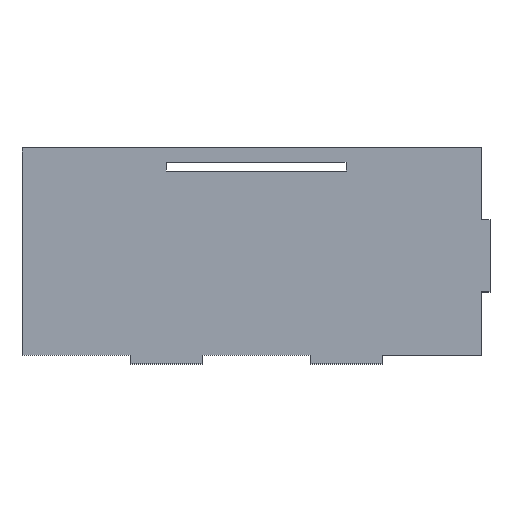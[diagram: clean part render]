
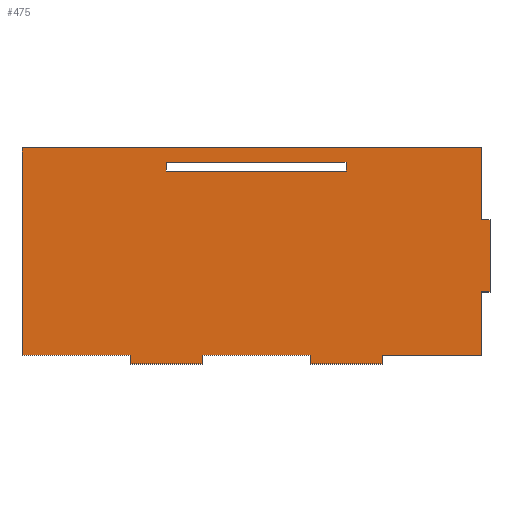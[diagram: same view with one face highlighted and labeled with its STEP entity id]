
A CAD part, top view. The second image highlights one B-rep face of the part: STEP entity #475.
In plain terms, the highlighted planar face has unit normal (0, 0, 1).
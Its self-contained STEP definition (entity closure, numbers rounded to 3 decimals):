
#1 = FACE_OUTER_BOUND ( 'NONE', #440, .T. ) ;
#6 = CARTESIAN_POINT ( 'NONE',  ( -58.322, 148.793, 10. ) ) ;
#10 = CARTESIAN_POINT ( 'NONE',  ( -196.322, -51.207, 10. ) ) ;
#11 = LINE ( 'NONE', #640, #202 ) ;
#16 = FACE_BOUND ( 'NONE', #642, .T. ) ;
#23 = VERTEX_POINT ( 'NONE', #483 ) ;
#35 = LINE ( 'NONE', #365, #307 ) ;
#36 = VECTOR ( 'NONE', #115, 1000. ) ;
#37 = ORIENTED_EDGE ( 'NONE', *, *, #555, .T. ) ;
#46 = LINE ( 'NONE', #597, #254 ) ;
#57 = LINE ( 'NONE', #729, #643 ) ;
#60 = LINE ( 'NONE', #10, #605 ) ;
#68 = DIRECTION ( 'NONE',  ( 1., 0., 0. ) ) ;
#71 = LINE ( 'NONE', #127, #701 ) ;
#79 = VECTOR ( 'NONE', #323, 1000. ) ;
#85 = LINE ( 'NONE', #594, #328 ) ;
#92 = ORIENTED_EDGE ( 'NONE', *, *, #241, .F. ) ;
#98 = ORIENTED_EDGE ( 'NONE', *, *, #732, .F. ) ;
#106 = LINE ( 'NONE', #222, #447 ) ;
#107 = CARTESIAN_POINT ( 'NONE',  ( -46.322, 148.793, 10. ) ) ;
#115 = DIRECTION ( 'NONE',  ( 1., 0., 0. ) ) ;
#118 = DIRECTION ( 'NONE',  ( 1., 0., 0. ) ) ;
#127 = CARTESIAN_POINT ( 'NONE',  ( -196.322, -39.207, 10. ) ) ;
#135 = CARTESIAN_POINT ( 'NONE',  ( -46.322, 148.793, 10. ) ) ;
#138 = VECTOR ( 'NONE', #228, 1000. ) ;
#147 = VERTEX_POINT ( 'NONE', #150 ) ;
#150 = CARTESIAN_POINT ( 'NONE',  ( -296.322, -51.207, 10. ) ) ;
#152 = VERTEX_POINT ( 'NONE', #604 ) ;
#155 = EDGE_CURVE ( 'NONE', #488, #485, #46, .T. ) ;
#164 = LINE ( 'NONE', #550, #360 ) ;
#171 = CARTESIAN_POINT ( 'NONE',  ( -446.322, -39.207, 10. ) ) ;
#175 = DIRECTION ( 'NONE',  ( 0., 1., 0. ) ) ;
#180 = LINE ( 'NONE', #296, #645 ) ;
#181 = EDGE_CURVE ( 'NONE', #543, #334, #106, .T. ) ;
#186 = LINE ( 'NONE', #692, #336 ) ;
#187 = VERTEX_POINT ( 'NONE', #497 ) ;
#202 = VECTOR ( 'NONE', #468, 1000. ) ;
#205 = ORIENTED_EDGE ( 'NONE', *, *, #648, .T. ) ;
#215 = ORIENTED_EDGE ( 'NONE', *, *, #482, .T. ) ;
#221 = EDGE_CURVE ( 'NONE', #590, #713, #502, .T. ) ;
#222 = CARTESIAN_POINT ( 'NONE',  ( -446.322, -51.207, 10. ) ) ;
#223 = DIRECTION ( 'NONE',  ( 1., 0., 0. ) ) ;
#225 = CARTESIAN_POINT ( 'NONE',  ( -696.322, 248.793, 10. ) ) ;
#227 = ORIENTED_EDGE ( 'NONE', *, *, #688, .T. ) ;
#228 = DIRECTION ( 'NONE',  ( -1., 0., 0. ) ) ;
#229 = VECTOR ( 'NONE', #489, 1000. ) ;
#230 = CARTESIAN_POINT ( 'NONE',  ( 0., 0., 10. ) ) ;
#233 = CARTESIAN_POINT ( 'NONE',  ( -196.322, -39.207, 10. ) ) ;
#234 = DIRECTION ( 'NONE',  ( 0., 0., -1. ) ) ;
#241 = EDGE_CURVE ( 'NONE', #318, #590, #542, .T. ) ;
#246 = CARTESIAN_POINT ( 'NONE',  ( -546.322, -51.207, 10. ) ) ;
#247 = DIRECTION ( 'NONE',  ( 1., 0., 0. ) ) ;
#250 = DIRECTION ( 'NONE',  ( 0., -1., 0. ) ) ;
#252 = CARTESIAN_POINT ( 'NONE',  ( -696.322, -39.207, 10. ) ) ;
#254 = VECTOR ( 'NONE', #385, 1000. ) ;
#264 = CARTESIAN_POINT ( 'NONE',  ( -496.322, 228.793, 10. ) ) ;
#270 = ORIENTED_EDGE ( 'NONE', *, *, #431, .T. ) ;
#271 = VERTEX_POINT ( 'NONE', #233 ) ;
#273 = LINE ( 'NONE', #225, #540 ) ;
#281 = CARTESIAN_POINT ( 'NONE',  ( -496.322, 216.793, 10. ) ) ;
#296 = CARTESIAN_POINT ( 'NONE',  ( -546.322, -51.207, 10. ) ) ;
#298 = EDGE_CURVE ( 'NONE', #652, #585, #680, .T. ) ;
#303 = CARTESIAN_POINT ( 'NONE',  ( -496.322, 228.793, 10. ) ) ;
#307 = VECTOR ( 'NONE', #316, 1000. ) ;
#308 = VERTEX_POINT ( 'NONE', #391 ) ;
#316 = DIRECTION ( 'NONE',  ( 0., 1., 0. ) ) ;
#318 = VERTEX_POINT ( 'NONE', #561 ) ;
#323 = DIRECTION ( 'NONE',  ( 0., -1., 0. ) ) ;
#327 = ORIENTED_EDGE ( 'NONE', *, *, #181, .T. ) ;
#328 = VECTOR ( 'NONE', #538, 1000. ) ;
#334 = VERTEX_POINT ( 'NONE', #171 ) ;
#336 = VECTOR ( 'NONE', #68, 1000. ) ;
#338 = DIRECTION ( 'NONE',  ( 0., 1., 0. ) ) ;
#341 = EDGE_CURVE ( 'NONE', #434, #543, #57, .T. ) ;
#344 = VERTEX_POINT ( 'NONE', #673 ) ;
#345 = CARTESIAN_POINT ( 'NONE',  ( -46.322, 148.793, 10. ) ) ;
#346 = DIRECTION ( 'NONE',  ( 0., -1., 0. ) ) ;
#347 = CARTESIAN_POINT ( 'NONE',  ( -446.322, -51.207, 10. ) ) ;
#355 = EDGE_CURVE ( 'NONE', #187, #603, #85, .T. ) ;
#360 = VECTOR ( 'NONE', #622, 1000. ) ;
#362 = DIRECTION ( 'NONE',  ( 0., 1., 0. ) ) ;
#364 = ORIENTED_EDGE ( 'NONE', *, *, #374, .T. ) ;
#365 = CARTESIAN_POINT ( 'NONE',  ( -58.322, 148.793, 10. ) ) ;
#371 = CARTESIAN_POINT ( 'NONE',  ( -296.322, -51.207, 10. ) ) ;
#373 = VERTEX_POINT ( 'NONE', #535 ) ;
#374 = EDGE_CURVE ( 'NONE', #425, #344, #530, .T. ) ;
#385 = DIRECTION ( 'NONE',  ( 0., 1., 0. ) ) ;
#387 = EDGE_CURVE ( 'NONE', #585, #187, #35, .T. ) ;
#391 = CARTESIAN_POINT ( 'NONE',  ( -246.322, 216.793, 10. ) ) ;
#393 = EDGE_CURVE ( 'NONE', #152, #147, #706, .T. ) ;
#396 = PLANE ( 'NONE',  #668 ) ;
#400 = CARTESIAN_POINT ( 'NONE',  ( -58.322, -39.207, 10. ) ) ;
#406 = ORIENTED_EDGE ( 'NONE', *, *, #221, .F. ) ;
#414 = ORIENTED_EDGE ( 'NONE', *, *, #341, .T. ) ;
#419 = DIRECTION ( 'NONE',  ( 1., 0., 0. ) ) ;
#425 = VERTEX_POINT ( 'NONE', #252 ) ;
#431 = EDGE_CURVE ( 'NONE', #344, #434, #180, .T. ) ;
#434 = VERTEX_POINT ( 'NONE', #246 ) ;
#435 = CARTESIAN_POINT ( 'NONE',  ( -496.322, 228.793, 10. ) ) ;
#440 = EDGE_LOOP ( 'NONE', ( #227, #364, #270, #414, #327, #623, #529, #698, #215, #37, #634, #205, #641, #660, #595, #633 ) ) ;
#447 = VECTOR ( 'NONE', #338, 1000. ) ;
#450 = VECTOR ( 'NONE', #118, 1000. ) ;
#454 = LINE ( 'NONE', #456, #450 ) ;
#456 = CARTESIAN_POINT ( 'NONE',  ( -296.322, -51.207, 10. ) ) ;
#458 = VECTOR ( 'NONE', #250, 1000. ) ;
#468 = DIRECTION ( 'NONE',  ( 1., 0., 0. ) ) ;
#475 = ADVANCED_FACE ( 'NONE', ( #1, #16 ), #396, .F. ) ;
#482 = EDGE_CURVE ( 'NONE', #373, #271, #60, .T. ) ;
#483 = CARTESIAN_POINT ( 'NONE',  ( -46.322, 48.793, 10. ) ) ;
#484 = CARTESIAN_POINT ( 'NONE',  ( -546.322, -39.207, 10. ) ) ;
#485 = VERTEX_POINT ( 'NONE', #586 ) ;
#487 = ORIENTED_EDGE ( 'NONE', *, *, #712, .F. ) ;
#488 = VERTEX_POINT ( 'NONE', #400 ) ;
#489 = DIRECTION ( 'NONE',  ( -1., 0., 0. ) ) ;
#497 = CARTESIAN_POINT ( 'NONE',  ( -58.322, 248.793, 10. ) ) ;
#502 = LINE ( 'NONE', #435, #79 ) ;
#529 = ORIENTED_EDGE ( 'NONE', *, *, #393, .T. ) ;
#530 = LINE ( 'NONE', #484, #619 ) ;
#535 = CARTESIAN_POINT ( 'NONE',  ( -196.322, -51.207, 10. ) ) ;
#538 = DIRECTION ( 'NONE',  ( -1., 0., 0. ) ) ;
#540 = VECTOR ( 'NONE', #672, 1000. ) ;
#542 = LINE ( 'NONE', #264, #229 ) ;
#543 = VERTEX_POINT ( 'NONE', #347 ) ;
#550 = CARTESIAN_POINT ( 'NONE',  ( -246.322, 228.793, 10. ) ) ;
#555 = EDGE_CURVE ( 'NONE', #271, #488, #71, .T. ) ;
#561 = CARTESIAN_POINT ( 'NONE',  ( -246.322, 228.793, 10. ) ) ;
#562 = CARTESIAN_POINT ( 'NONE',  ( -496.322, 216.793, 10. ) ) ;
#572 = EDGE_CURVE ( 'NONE', #334, #152, #186, .T. ) ;
#585 = VERTEX_POINT ( 'NONE', #6 ) ;
#586 = CARTESIAN_POINT ( 'NONE',  ( -58.322, 48.793, 10. ) ) ;
#590 = VERTEX_POINT ( 'NONE', #303 ) ;
#594 = CARTESIAN_POINT ( 'NONE',  ( -696.322, 248.793, 10. ) ) ;
#595 = ORIENTED_EDGE ( 'NONE', *, *, #387, .T. ) ;
#597 = CARTESIAN_POINT ( 'NONE',  ( -58.322, 48.793, 10. ) ) ;
#603 = VERTEX_POINT ( 'NONE', #636 ) ;
#604 = CARTESIAN_POINT ( 'NONE',  ( -296.322, -39.207, 10. ) ) ;
#605 = VECTOR ( 'NONE', #362, 1000. ) ;
#619 = VECTOR ( 'NONE', #419, 1000. ) ;
#622 = DIRECTION ( 'NONE',  ( 0., 1., 0. ) ) ;
#623 = ORIENTED_EDGE ( 'NONE', *, *, #572, .T. ) ;
#633 = ORIENTED_EDGE ( 'NONE', *, *, #355, .T. ) ;
#634 = ORIENTED_EDGE ( 'NONE', *, *, #155, .T. ) ;
#636 = CARTESIAN_POINT ( 'NONE',  ( -696.322, 248.793, 10. ) ) ;
#640 = CARTESIAN_POINT ( 'NONE',  ( -46.322, 48.793, 10. ) ) ;
#641 = ORIENTED_EDGE ( 'NONE', *, *, #678, .T. ) ;
#642 = EDGE_LOOP ( 'NONE', ( #406, #92, #487, #98 ) ) ;
#643 = VECTOR ( 'NONE', #223, 1000. ) ;
#645 = VECTOR ( 'NONE', #346, 1000. ) ;
#648 = EDGE_CURVE ( 'NONE', #485, #23, #11, .T. ) ;
#652 = VERTEX_POINT ( 'NONE', #135 ) ;
#660 = ORIENTED_EDGE ( 'NONE', *, *, #298, .T. ) ;
#668 = AXIS2_PLACEMENT_3D ( 'NONE', #230, #234, #683 ) ;
#670 = LINE ( 'NONE', #107, #708 ) ;
#672 = DIRECTION ( 'NONE',  ( 0., -1., 0. ) ) ;
#673 = CARTESIAN_POINT ( 'NONE',  ( -546.322, -39.207, 10. ) ) ;
#674 = LINE ( 'NONE', #562, #36 ) ;
#678 = EDGE_CURVE ( 'NONE', #23, #652, #670, .T. ) ;
#680 = LINE ( 'NONE', #345, #138 ) ;
#683 = DIRECTION ( 'NONE',  ( -1., 0., 0. ) ) ;
#688 = EDGE_CURVE ( 'NONE', #603, #425, #273, .T. ) ;
#692 = CARTESIAN_POINT ( 'NONE',  ( -296.322, -39.207, 10. ) ) ;
#698 = ORIENTED_EDGE ( 'NONE', *, *, #731, .T. ) ;
#701 = VECTOR ( 'NONE', #247, 1000. ) ;
#706 = LINE ( 'NONE', #371, #458 ) ;
#708 = VECTOR ( 'NONE', #175, 1000. ) ;
#712 = EDGE_CURVE ( 'NONE', #308, #318, #164, .T. ) ;
#713 = VERTEX_POINT ( 'NONE', #281 ) ;
#729 = CARTESIAN_POINT ( 'NONE',  ( -546.322, -51.207, 10. ) ) ;
#731 = EDGE_CURVE ( 'NONE', #147, #373, #454, .T. ) ;
#732 = EDGE_CURVE ( 'NONE', #713, #308, #674, .T. ) ;
